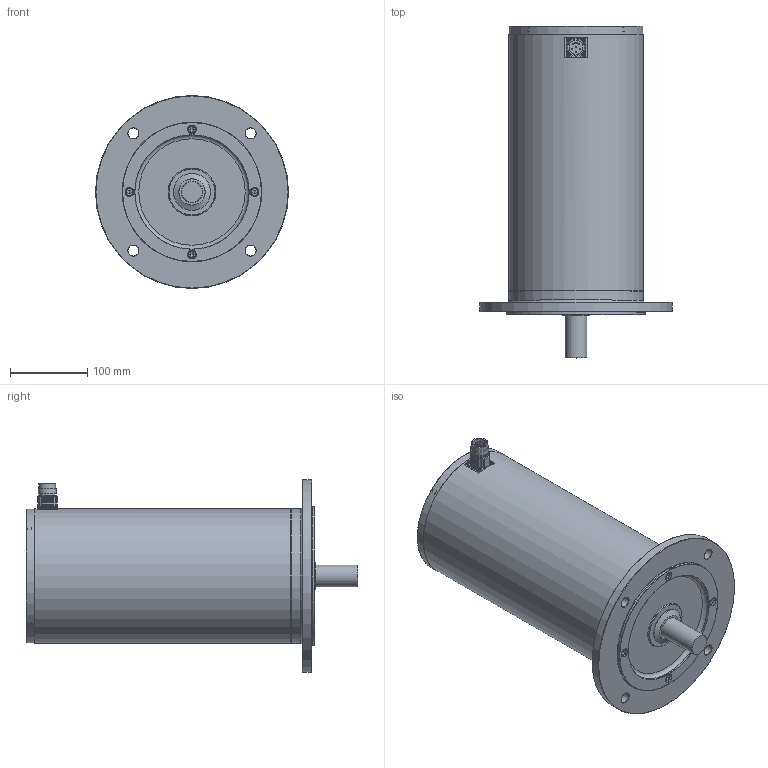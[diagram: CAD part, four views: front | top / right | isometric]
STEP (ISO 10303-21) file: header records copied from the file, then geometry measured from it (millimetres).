
FILE_DESCRIPTION(/* description */ (''),/* implementation_level */ '2;1');
FILE_NAME(/* name */ 'ksa_8x20e',/* time_stamp */ '2007-03-14T10:06:49+01:00',/* author */ (''),/* organization */ (''),/* preprocessor_version */ 'ST-DEVELOPER v8',/* originating_system */ 'UNIGRAPHICS SOLUTIONS - UNIGRAPHICS 18.0',/* authorisation */ '');
FILE_SCHEMA (('AUTOMOTIVE_DESIGN { 1 2 10303 214 0 1 1 1 }'));
Length unit declared in the file: millimetre
Products named in the file (11): iso1580-m2.5x6_A; din912-m6x12_A; din912-m6x30_A; 06331401_0; DIN3760_org_A30x42x7_0; 014260_0; 118026_0; Rotor_SA 84.. E_0; 118025_0; Gehaeuse SA 84.. E_0; KSA8412_E_0
Assembly tree (19 placements, depth 2):
  KSA8412_E_0
    Gehaeuse SA 84.. E_0
    118025_0
    Rotor_SA 84.. E_0
    118026_0
    014260_0
    DIN3760_org_A30x42x7_0
    06331401_0
    din912-m6x30_A  x4
    din912-m6x12_A  x4
    iso1580-m2.5x6_A  x4
Bounding box: 250 x 430 x 250 mm (x, y, z)
Volume: 4123861.3 mm3; surface area: 590028 mm2
Topology: 19 solids, 19 shells, 488 faces, 1109 edges, 692 vertices
Faces by surface type: plane 212, cylinder 156, cone 78, torus 34, sphere 8
Full cylindrical faces by diameter (mm): 1 x4, 1.948 x4, 2 x4, 2.5 x4, 2.7 x4, 5 x8, 6 x8, 6.4 x8, 10 x8, 11 x8, 14 x4, 18 x1, 20 x2, 21 x1, 21.5 x1, 23 x2, 27.52 x1, 27.9 x1, 28 x1, 30 x2, 30.3 x1, 38 x1, 39 x1, 42 x2, 44 x1, 48 x1, 52 x1, 56 x1, 60 x1, 62 x1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
Entity records: 8311 total; most frequent: DIRECTION 1558, CARTESIAN_POINT 1321, ORIENTED_EDGE 1026, AXIS2_PLACEMENT_3D 709, EDGE_LOOP 552, EDGE_CURVE 513, VERTEX_POINT 411, CIRCLE 369
